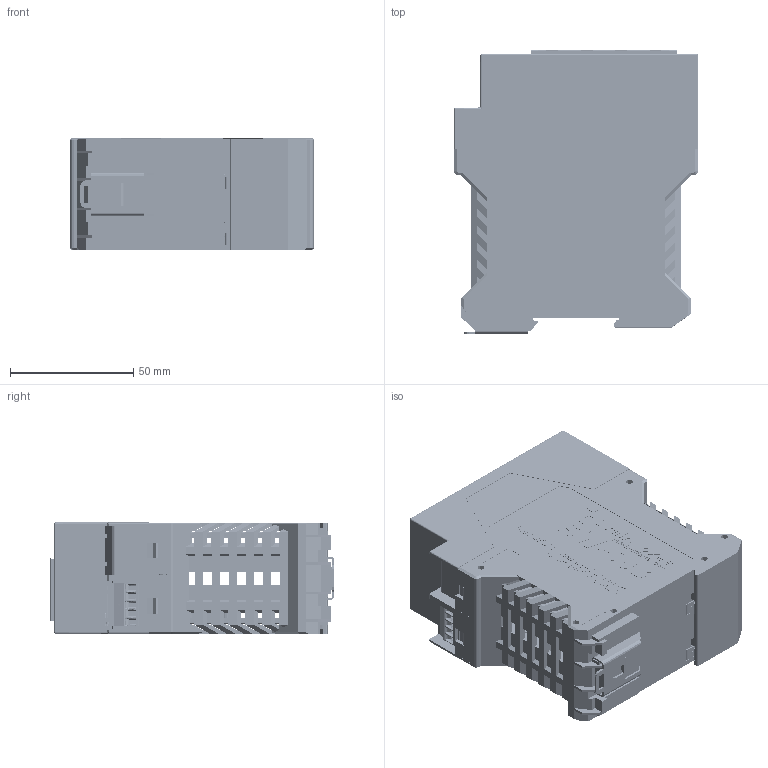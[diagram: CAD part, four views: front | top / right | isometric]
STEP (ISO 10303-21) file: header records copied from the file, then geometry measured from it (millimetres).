
FILE_DESCRIPTION(('FreeCAD Model'),'2;1');
FILE_NAME('Open CASCADE Shape Model','2023-03-15T14:37:10',('Author'),( ''),'Open CASCADE STEP processor 7.6','FreeCAD','Unknown');
FILE_SCHEMA(('AUTOMOTIVE_DESIGN { 1 0 10303 214 1 1 1 1 }'));
Products named in the file (1): For SW-508 Colour
Bounding box: 99 x 115.4 x 47.2 mm (x, y, z)
Volume: 113634.7 mm3; surface area: 163840.7 mm2
Topology: 232 solids, 232 shells, 16272 faces, 46918 edges, 30713 vertices
Faces by surface type: plane 13067, cylinder 2476, bspline 558, torus 99, cone 36, revolution 26, sphere 10
Full cylindrical faces by diameter (mm): 3.81 x1
Entity records: 654387 total; most frequent: CARTESIAN_POINT 106430, ORIENTED_EDGE 93804, DIRECTION 83913, EDGE_CURVE 46902, LINE 39781, VECTOR 39781, VERTEX_POINT 30713, AXIS2_PLACEMENT_3D 22053
